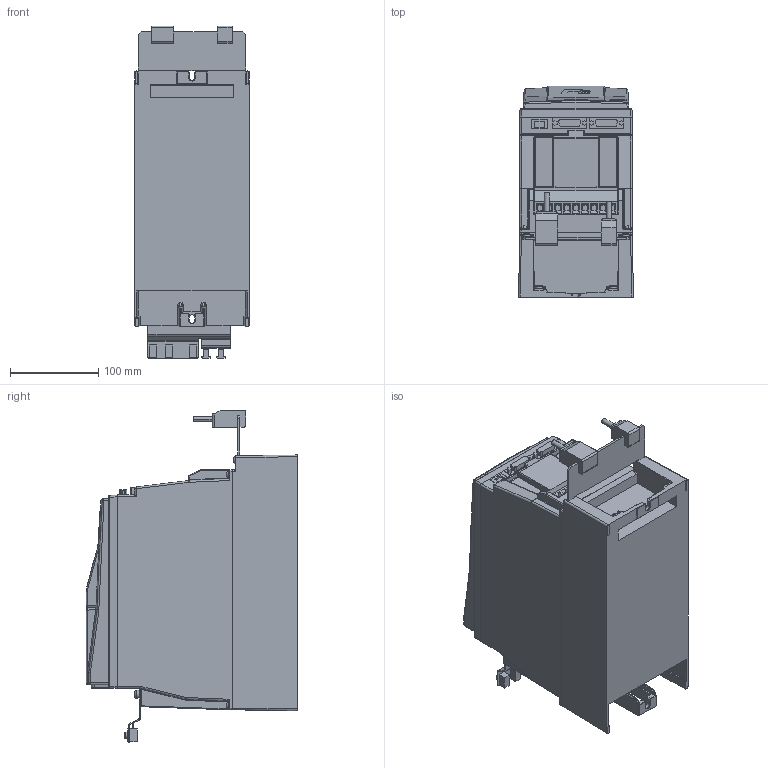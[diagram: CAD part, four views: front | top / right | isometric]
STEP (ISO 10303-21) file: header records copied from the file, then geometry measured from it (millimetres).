
FILE_DESCRIPTION (( 'STEP AP214' ), '1' );
FILE_NAME ('F6-2TR0-K001.STEP', '2020-11-26T11:20:23', ( '' ), ( '' ), 'SwSTEP 2.0', 'SolidWorks 2019', '' );
FILE_SCHEMA (( 'AUTOMOTIVE_DESIGN' ));
Length unit declared in the file: millimetre
Products named in the file (1): F6-2TR0-K001
Bounding box: 130 x 240 x 376.5 mm (x, y, z)
Volume: 7137281.8 mm3; surface area: 332748.7 mm2
Topology: 4 solids, 4 shells, 1547 faces, 3825 edges, 2293 vertices
Faces by surface type: plane 716, cylinder 443, bspline 239, torus 65, sphere 60, cone 24
Entity records: 53262 total; most frequent: CARTESIAN_POINT 18941, ORIENTED_EDGE 7506, DIRECTION 6534, EDGE_CURVE 3753, VERTEX_POINT 2293, AXIS2_PLACEMENT_3D 2205, VECTOR 2124, LINE 2124
